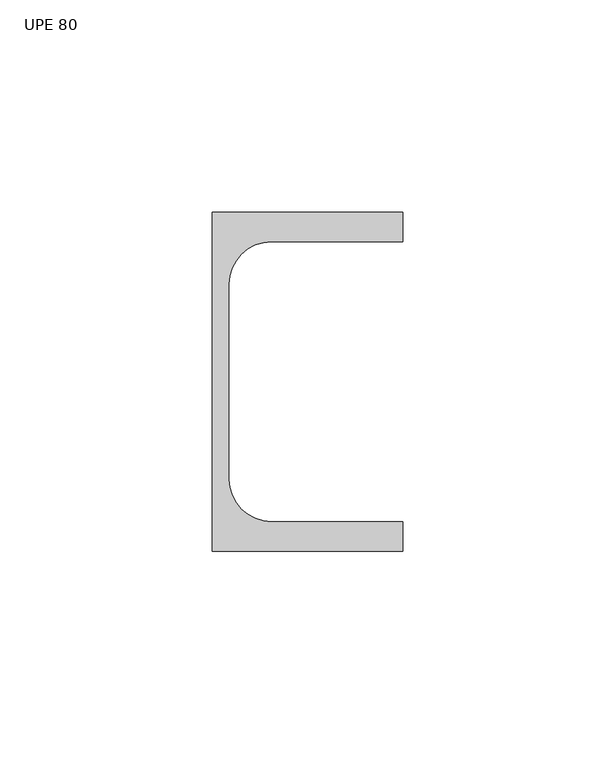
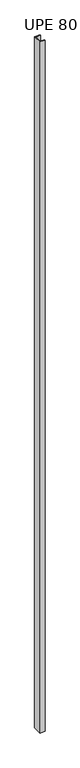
"""IFC4 building model written with IfcOpenShell, lengths in millimetres: column geometry, UPE - Canales de ala paralela - Pilar : UPE 80."""

import ifcopenshell
import ifcopenshell.guid

model = None  # the IFC model being written
_history = None  # IfcOwnerHistory: only IFC2X3 demands one
_inside = {}  # id of a spatial element -> (the spatial element, [elements in it])
_under = {}  # id of a project, library or spatial element -> (it, [spatial elements below it])
_declared = {}  # id of a project -> (the project, [libraries it declares])
_typed = {}  # id of a type object -> (the type object, [elements of that type])
_made_of = {}  # id of a material, layer set ... -> (it, [elements and type objects made of it])


def new_model(schema):
    """Start an empty IFC model of exactly this schema.

    Asked for "IFC4X3", IfcOpenShell would pick the latest addendum, in which some entities
    have other attributes; the version numbers below select the first issue.
    IFC2X3 requires an IfcOwnerHistory on every rooted entity: one is made here for all.
    """
    global model, _history
    if schema == "IFC4X3":
        model = ifcopenshell.file(schema_version=(4, 3, 0, 0))
    else:
        model = ifcopenshell.file(schema=schema)
    _inside.clear()
    _under.clear()
    _declared.clear()
    _typed.clear()
    _made_of.clear()
    _history = None
    if model.schema == "IFC2X3":
        org = make("IfcOrganization", Name="unknown")
        user = make(
            "IfcPersonAndOrganization",
            ThePerson=make("IfcPerson", FamilyName="unknown"),
            TheOrganization=org,
        )
        app = make(
            "IfcApplication",
            ApplicationDeveloper=org,
            Version="unknown",
            ApplicationFullName="unknown",
            ApplicationIdentifier="unknown",
        )
        _history = make(
            "IfcOwnerHistory",
            OwningUser=user,
            OwningApplication=app,
            ChangeAction="ADDED",
            CreationDate=0,
        )
    return model


def make(cls, **values):
    """One entity of the class cls with the attributes given. An attribute that is None is left unset."""
    return model.create_entity(
        cls, **{name: value for name, value in values.items() if value is not None}
    )


def rooted(cls, **values):
    """An entity with a GlobalId (a new one), such as an element, a storey or a relation."""
    return make(cls, GlobalId=ifcopenshell.guid.new(), OwnerHistory=_history, **values)


def si_unit(unit_type, name, prefix=None):
    """IfcSIUnit, for example si_unit("LENGTHUNIT", "METRE", prefix="MILLI")."""
    return make("IfcSIUnit", UnitType=unit_type, Prefix=prefix, Name=name)


def assignment(units):
    """IfcUnitAssignment: the units of a project."""
    return None if units is None else make("IfcUnitAssignment", Units=units)


def point(xyz):
    """IfcCartesianPoint."""
    return None if xyz is None else make("IfcCartesianPoint", Coordinates=xyz)


def direction(xyz):
    """IfcDirection."""
    return None if xyz is None else make("IfcDirection", DirectionRatios=xyz)


def frame(location, z_axis=None, x_axis=None):
    """IfcAxis2Placement3D, a coordinate frame: its origin and axes. An axis left out is left unset."""
    return make(
        "IfcAxis2Placement3D",
        Location=point(location),
        Axis=direction(z_axis),
        RefDirection=direction(x_axis),
    )


def frame_2d(location, x_axis=None):
    """IfcAxis2Placement2D, a coordinate frame in the plane: its origin and x axis."""
    return make(
        "IfcAxis2Placement2D", Location=point(location), RefDirection=direction(x_axis)
    )


def origin():
    """The frame at (0, 0, 0) with its axes left unset."""
    return frame((0.0, 0.0, 0.0))


def origin_with_axes():
    """The frame at (0, 0, 0) with the z axis (0, 0, 1) and the x axis (1, 0, 0) written out."""
    return frame((0.0, 0.0, 0.0), z_axis=(0.0, 0.0, 1.0), x_axis=(1.0, 0.0, 0.0))


def place(relative_to, where):
    """IfcLocalPlacement: puts the frame where relative to a parent placement (None: the world)."""
    return make(
        "IfcLocalPlacement", PlacementRelTo=relative_to, RelativePlacement=where
    )


def context(
    kind, dimensions, precision=None, world=None, true_north=None, identifier=None
):
    """IfcGeometricRepresentationContext, for example the 3D "Model" context."""
    return make(
        "IfcGeometricRepresentationContext",
        ContextIdentifier=identifier,
        ContextType=kind,
        CoordinateSpaceDimension=dimensions,
        Precision=precision,
        WorldCoordinateSystem=world,
        TrueNorth=true_north,
    )


def project(units=None, contexts=None):
    """IfcProject with its units and contexts."""
    return rooted(
        "IfcProject",
        Name="project",
        RepresentationContexts=contexts,
        UnitsInContext=assignment(units),
    )


def spatial(cls, under=None, at=None, **own):
    """A site, building, storey or space (cls), placed at a placement, below another one or the project."""
    s = rooted(cls, ObjectPlacement=at, **own)
    if under is not None:
        _under.setdefault(under.id(), (under, []))[1].append(s)
    return s


def polyline(points):
    """IfcPolyline through the points."""
    return make("IfcPolyline", Points=[point(p) for p in points])


def circle_curve(where, radius):
    """IfcCircle in the frame where."""
    return make("IfcCircle", Position=where, Radius=radius)


def trimmed(basis, trim1, trim2, sense, master):
    """IfcTrimmedCurve: the piece of a basis curve between two trims."""
    return make(
        "IfcTrimmedCurve",
        BasisCurve=basis,
        Trim1=trim1,
        Trim2=trim2,
        SenseAgreement=sense,
        MasterRepresentation=master,
    )


def segment(curve, same_sense, transition):
    """IfcCompositeCurveSegment."""
    return make(
        "IfcCompositeCurveSegment",
        Transition=transition,
        SameSense=same_sense,
        ParentCurve=curve,
    )


def composite_curve(segments, self_intersect=None):
    """IfcCompositeCurve: segments joined end to end."""
    return make("IfcCompositeCurve", Segments=segments, SelfIntersect=self_intersect)


def outline(outer, holes=None, kind="AREA"):
    """IfcArbitraryClosedProfileDef: a profile drawn as a closed curve; with holes, ...WithVoids."""
    if holes is None:
        return make("IfcArbitraryClosedProfileDef", ProfileType=kind, OuterCurve=outer)
    return make(
        "IfcArbitraryProfileDefWithVoids",
        ProfileType=kind,
        OuterCurve=outer,
        InnerCurves=holes,
    )


def extrude(swept, where, along, depth):
    """IfcExtrudedAreaSolid: the profile swept, set in the frame where, extruded along a direction by depth."""
    return make(
        "IfcExtrudedAreaSolid",
        SweptArea=swept,
        Position=where,
        ExtrudedDirection=direction(along),
        Depth=depth,
    )


def shape(context_of_items, identifier, shape_type, items):
    """IfcShapeRepresentation: the items that make up one representation, for example the "Body"."""
    return make(
        "IfcShapeRepresentation",
        ContextOfItems=context_of_items,
        RepresentationIdentifier=identifier,
        RepresentationType=shape_type,
        Items=items,
    )


def source(mapping_origin, context_of_items, identifier, shape_type, items):
    """IfcRepresentationMap: a shape defined once, which mapped items show again and again."""
    return make(
        "IfcRepresentationMap",
        MappingOrigin=mapping_origin,
        MappedRepresentation=shape(context_of_items, identifier, shape_type, items),
    )


def transform(
    local_origin,
    x_axis=None,
    y_axis=None,
    z_axis=None,
    scale=None,
    scale2=None,
    scale3=None,
    uniform=True,
):
    """IfcCartesianTransformationOperator3D, or its non-uniform kind. x_axis, y_axis, z_axis: its Axis1, 2, 3."""
    if uniform:
        return make(
            "IfcCartesianTransformationOperator3D",
            Axis1=direction(x_axis),
            Axis2=direction(y_axis),
            LocalOrigin=point(local_origin),
            Scale=scale,
            Axis3=direction(z_axis),
        )
    return make(
        "IfcCartesianTransformationOperator3DnonUniform",
        Axis1=direction(x_axis),
        Axis2=direction(y_axis),
        LocalOrigin=point(local_origin),
        Scale=scale,
        Axis3=direction(z_axis),
        Scale2=scale2,
        Scale3=scale3,
    )


def mapped(mapping_source, mapping_target):
    """IfcMappedItem: shows the shape of a source again, moved by a transform."""
    return make(
        "IfcMappedItem", MappingSource=mapping_source, MappingTarget=mapping_target
    )


def made_of(thing, what):
    """Note that an element or type object is made of a material, layer set ...; save() writes the relation."""
    if what is not None:
        _made_of.setdefault(what.id(), (what, []))[1].append(thing)
    return thing


def element(
    cls,
    number,
    at=None,
    inside=None,
    cuts=None,
    type_object=None,
    material=None,
    context=None,
    identifier="Body",
    shape_type=None,
    held_by="IfcProductDefinitionShape",
    body=None,
    shapes=None,
    **own,
):
    """One element of the class cls, such as IfcWall. Its Tag is "e" and its number.

    at: its placement. inside: the storey or other place that contains it. cuts: it is an
    opening in that element (IfcRelVoidsElement). A single representation is given by context,
    identifier, shape_type and body (its items); several are given by shapes. held_by: the class
    of the entity that holds the representations. save() writes the other relations.
    """
    e = rooted(cls, Tag="e%d" % number, ObjectPlacement=at, **own)
    if body is not None:
        shapes = [shape(context, identifier, shape_type, body)]
    if shapes is not None:
        e.Representation = make(held_by, Representations=shapes)
    if inside is not None:
        _inside.setdefault(inside.id(), (inside, []))[1].append(e)
    if cuts is not None:
        rooted(
            "IfcRelVoidsElement", RelatingBuildingElement=cuts, RelatedOpeningElement=e
        )
    if type_object is not None:
        _typed.setdefault(type_object.id(), (type_object, []))[1].append(e)
    return made_of(e, material)


def aggregate(whole, parts):
    """IfcRelAggregates: a whole, such as a stair, and the parts it consists of."""
    return rooted("IfcRelAggregates", RelatingObject=whole, RelatedObjects=parts)


def save(model, path):
    """Write the relations noted so far, then the file.

    IfcRelAggregates (storeys below a building ...), IfcRelContainedInSpatialStructure (elements
    in a storey), IfcRelDefinesByType, IfcRelAssociatesMaterial and IfcRelDeclares: one each for
    every whole, place, type object, material and project.
    """
    for whole, parts in _under.values():
        aggregate(whole, parts)
    for where, things in _inside.values():
        rooted(
            "IfcRelContainedInSpatialStructure",
            RelatedElements=things,
            RelatingStructure=where,
        )
    for kind, things in _typed.values():
        rooted("IfcRelDefinesByType", RelatedObjects=things, RelatingType=kind)
    for what, things in _made_of.values():
        rooted("IfcRelAssociatesMaterial", RelatedObjects=things, RelatingMaterial=what)
    for by, libraries in _declared.values():
        rooted("IfcRelDeclares", RelatingContext=by, RelatedDefinitions=libraries)
    model.write(path)


def upe_80_d37b7986(model_context):
    return source(origin(), model_context, "Body", "SweptSolid", [
        extrude(outline(composite_curve([segment(polyline([(-18.2, -40.0), (-18.2, 40.0), (26.8, 40.0), (26.8, 33.0), (-4.2, 33.0)]), True, "CONTINUOUS"), segment(trimmed(circle_curve(frame_2d((-4.2, 23.0)), 10.0), [point((-4.2, 33.0))], [point((-14.2, 23.0))], True, "CARTESIAN"), True, "CONTINUOUS"), segment(polyline([(-14.2, 23.0), (-14.2, -23.0)]), True, "CONTINUOUS"), segment(trimmed(circle_curve(frame_2d((-4.2, -23.0)), 10.0), [point((-14.2, -23.0))], [point((-4.2, -33.0))], True, "CARTESIAN"), True, "CONTINUOUS"), segment(polyline([(-4.2, -33.0), (26.8, -33.0), (26.8, -40.0), (-18.2, -40.0)]), True, "CONTINUOUS")], self_intersect=False)), origin_with_axes(), (0.0, 0.0, 1.0), 6340.0),
    ])


if __name__ == "__main__":
    model = new_model("IFC4")
    model_context = context("Model", 3, world=origin())
    ifc_project = project(units=[si_unit("LENGTHUNIT", "METRE", prefix="MILLI")], contexts=[model_context])
    site = spatial("IfcSite", under=ifc_project)
    building = spatial("IfcBuilding", under=site)
    placement = place(None, origin())
    upe_80_shape = upe_80_d37b7986(model_context)
    element("IfcColumn", 1, ObjectType="UPE - Canales de ala paralela - Pilar : UPE 80", at=placement, inside=building, context=model_context, shape_type="MappedRepresentation", body=[
        mapped(upe_80_shape, transform((0.0, 0.0, 0.0), x_axis=(1.0, 0.0, 0.0), y_axis=(0.0, 1.0, 0.0), z_axis=(0.0, 0.0, 1.0))),
    ])
    save(model, "model.ifc")
